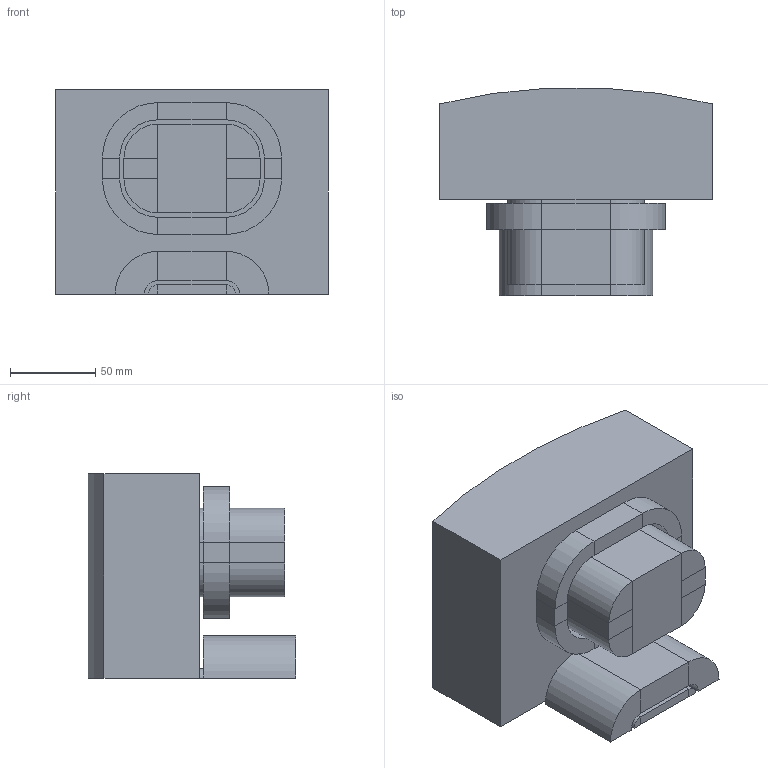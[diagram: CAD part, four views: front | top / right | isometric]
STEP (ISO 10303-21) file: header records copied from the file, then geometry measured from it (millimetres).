
FILE_DESCRIPTION(('STEP AP214'),'1');
FILE_NAME('SWLS_Sirius_Model7_step.step','2022-02-22T11:13:14',(' '),(' '),'Spatial InterOp 3D',' ',' ');
FILE_SCHEMA(('AUTOMOTIVE_DESIGN { 1 0 10303 214 1 1 1 1 }'));
Length unit declared in the file: millimetre
Products named in the file (1): Yoke
Bounding box: 160 x 121.84 x 120 mm (x, y, z)
Volume: 1533203.9 mm3; surface area: 152994.6 mm2
Topology: 22 solids, 22 shells, 126 faces, 246 edges, 164 vertices
Faces by surface type: plane 107, cylinder 19
Entity records: 3464 total; most frequent: DIRECTION 580, CARTESIAN_POINT 558, ORIENTED_EDGE 492, EDGE_CURVE 246, LINE 208, VECTOR 208, AXIS2_PLACEMENT_3D 186, VERTEX_POINT 164
